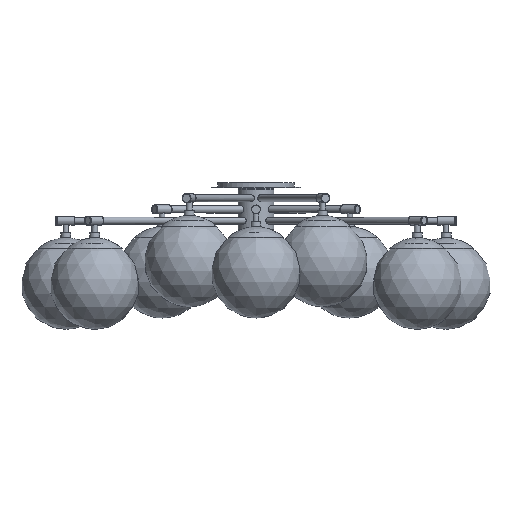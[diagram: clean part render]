
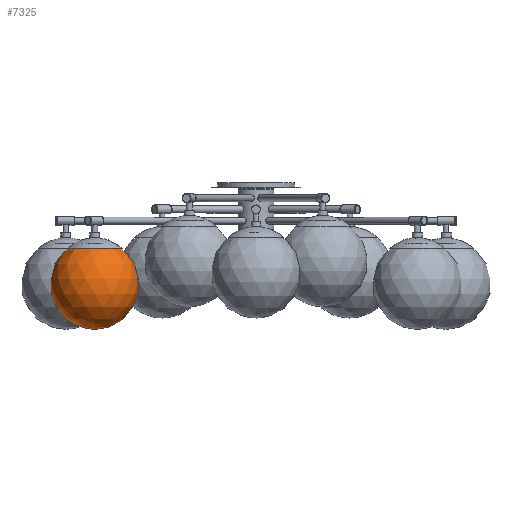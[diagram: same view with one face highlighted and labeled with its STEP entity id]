
A CAD part, front view. The second image highlights one B-rep face of the part: STEP entity #7325.
In plain terms, the highlighted free-form (B-spline) face has degree [2, 2] with [5, 9] control points.
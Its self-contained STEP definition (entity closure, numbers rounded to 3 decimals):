
#52=(
BOUNDED_SURFACE()
B_SPLINE_SURFACE(2,2,((#15160,#15161,#15162,#15163,#15164,#15165,#15166,
#15167,#15168),(#15169,#15170,#15171,#15172,#15173,#15174,#15175,#15176,
#15177),(#15178,#15179,#15180,#15181,#15182,#15183,#15184,#15185,#15186),
(#15187,#15188,#15189,#15190,#15191,#15192,#15193,#15194,#15195),(#15196,
#15197,#15198,#15199,#15200,#15201,#15202,#15203,#15204)),.UNSPECIFIED.,
 .F.,.T.,.F.)
B_SPLINE_SURFACE_WITH_KNOTS((3,2,3),(3,2,2,2,3),(-1.156,0.208,
1.572),(-3.142,-1.571,0.,1.571,
3.142),.UNSPECIFIED.)
GEOMETRIC_REPRESENTATION_ITEM()
RATIONAL_B_SPLINE_SURFACE(((1.,0.707,1.,0.707,1.,
0.707,1.,0.707,1.),(0.776,0.549,
0.776,0.549,0.776,0.549,
0.776,0.549,0.776),(1.,0.707,
1.,0.707,1.,0.707,1.,0.707,1.),(0.776,
0.549,0.776,0.549,0.776,
0.549,0.776,0.549,0.776),
(1.,0.707,1.,0.707,1.,0.707,1.,0.707,
1.)))
REPRESENTATION_ITEM('')
SURFACE()
);
#1787=FACE_OUTER_BOUND('',#2459,.T.);
#2459=EDGE_LOOP('',(#6606,#6607,#6608));
#3059=CIRCLE('',#8443,40.391);
#3061=CIRCLE('',#8445,100.);
#3708=VERTEX_POINT('',#15157);
#3709=VERTEX_POINT('',#15205);
#4681=EDGE_CURVE('',#3708,#3708,#3059,.T.);
#4683=EDGE_CURVE('',#3709,#3708,#3061,.T.);
#6606=ORIENTED_EDGE('',*,*,#4683,.T.);
#6607=ORIENTED_EDGE('',*,*,#4681,.T.);
#6608=ORIENTED_EDGE('',*,*,#4683,.F.);
#7325=ADVANCED_FACE('',(#1787),#52,.F.);
#8443=AXIS2_PLACEMENT_3D('',#15158,#10934,#10935);
#8445=AXIS2_PLACEMENT_3D('',#15206,#10938,#10939);
#10934=DIRECTION('center_axis',(0.,0.,
-1.));
#10935=DIRECTION('ref_axis',(-0.707,0.707,0.));
#10938=DIRECTION('center_axis',(0.707,-0.707,0.));
#10939=DIRECTION('ref_axis',(0.707,0.707,0.));
#15157=CARTESIAN_POINT('',(-331.356,-331.356,191.528));
#15158=CARTESIAN_POINT('Origin',(-359.917,-359.917,191.528));
#15160=CARTESIAN_POINT('Ctrl Pts',(-331.356,-331.356,
191.528));
#15161=CARTESIAN_POINT('Ctrl Pts',(-302.795,-359.917,
191.528));
#15162=CARTESIAN_POINT('Ctrl Pts',(-331.356,-388.478,
191.528));
#15163=CARTESIAN_POINT('Ctrl Pts',(-359.917,-417.039,
191.528));
#15164=CARTESIAN_POINT('Ctrl Pts',(-388.478,-388.478,
191.528));
#15165=CARTESIAN_POINT('Ctrl Pts',(-417.039,-359.917,
191.528));
#15166=CARTESIAN_POINT('Ctrl Pts',(-388.478,-331.356,
191.528));
#15167=CARTESIAN_POINT('Ctrl Pts',(-359.917,-302.795,
191.528));
#15168=CARTESIAN_POINT('Ctrl Pts',(-331.356,-331.356,
191.528));
#15169=CARTESIAN_POINT('Ctrl Pts',(-278.802,-278.802,
158.82));
#15170=CARTESIAN_POINT('Ctrl Pts',(-197.686,-359.917,
158.82));
#15171=CARTESIAN_POINT('Ctrl Pts',(-278.802,-441.033,
158.82));
#15172=CARTESIAN_POINT('Ctrl Pts',(-359.917,-522.148,
158.82));
#15173=CARTESIAN_POINT('Ctrl Pts',(-441.033,-441.033,
158.82));
#15174=CARTESIAN_POINT('Ctrl Pts',(-522.148,-359.917,
158.82));
#15175=CARTESIAN_POINT('Ctrl Pts',(-441.033,-278.802,
158.82));
#15176=CARTESIAN_POINT('Ctrl Pts',(-359.917,-197.686,
158.82));
#15177=CARTESIAN_POINT('Ctrl Pts',(-278.802,-278.802,
158.82));
#15178=CARTESIAN_POINT('Ctrl Pts',(-290.65,-290.65,
79.365));
#15179=CARTESIAN_POINT('Ctrl Pts',(-221.383,-359.917,
79.365));
#15180=CARTESIAN_POINT('Ctrl Pts',(-290.65,-429.185,
79.365));
#15181=CARTESIAN_POINT('Ctrl Pts',(-359.917,-498.452,
79.365));
#15182=CARTESIAN_POINT('Ctrl Pts',(-429.185,-429.185,
79.365));
#15183=CARTESIAN_POINT('Ctrl Pts',(-498.452,-359.917,
79.365));
#15184=CARTESIAN_POINT('Ctrl Pts',(-429.185,-290.65,
79.365));
#15185=CARTESIAN_POINT('Ctrl Pts',(-359.917,-221.383,
79.365));
#15186=CARTESIAN_POINT('Ctrl Pts',(-290.65,-290.65,
79.365));
#15187=CARTESIAN_POINT('Ctrl Pts',(-302.499,-302.499,
-0.09));
#15188=CARTESIAN_POINT('Ctrl Pts',(-245.08,-359.917,
-0.09));
#15189=CARTESIAN_POINT('Ctrl Pts',(-302.499,-417.336,
-0.09));
#15190=CARTESIAN_POINT('Ctrl Pts',(-359.917,-474.755,
-0.09));
#15191=CARTESIAN_POINT('Ctrl Pts',(-417.336,-417.336,
-0.09));
#15192=CARTESIAN_POINT('Ctrl Pts',(-474.755,-359.917,
-0.09));
#15193=CARTESIAN_POINT('Ctrl Pts',(-417.336,-302.499,
-0.09));
#15194=CARTESIAN_POINT('Ctrl Pts',(-359.917,-245.08,
-0.09));
#15195=CARTESIAN_POINT('Ctrl Pts',(-302.499,-302.499,
-0.09));
#15196=CARTESIAN_POINT('Ctrl Pts',(-359.917,-359.917,
0.));
#15197=CARTESIAN_POINT('Ctrl Pts',(-359.917,-359.917,
0.));
#15198=CARTESIAN_POINT('Ctrl Pts',(-359.917,-359.917,
0.));
#15199=CARTESIAN_POINT('Ctrl Pts',(-359.917,-359.917,
0.));
#15200=CARTESIAN_POINT('Ctrl Pts',(-359.917,-359.917,
0.));
#15201=CARTESIAN_POINT('Ctrl Pts',(-359.917,-359.917,
0.));
#15202=CARTESIAN_POINT('Ctrl Pts',(-359.917,-359.917,
0.));
#15203=CARTESIAN_POINT('Ctrl Pts',(-359.917,-359.917,
0.));
#15204=CARTESIAN_POINT('Ctrl Pts',(-359.917,-359.917,
0.));
#15205=CARTESIAN_POINT('',(-359.917,-359.917,0.));
#15206=CARTESIAN_POINT('Origin',(-359.839,-359.839,100.));
